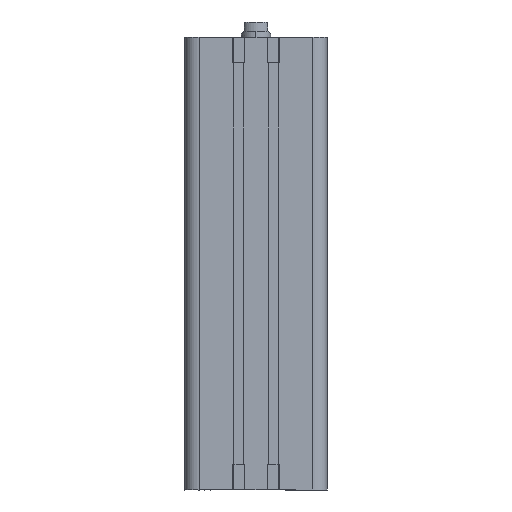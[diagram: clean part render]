
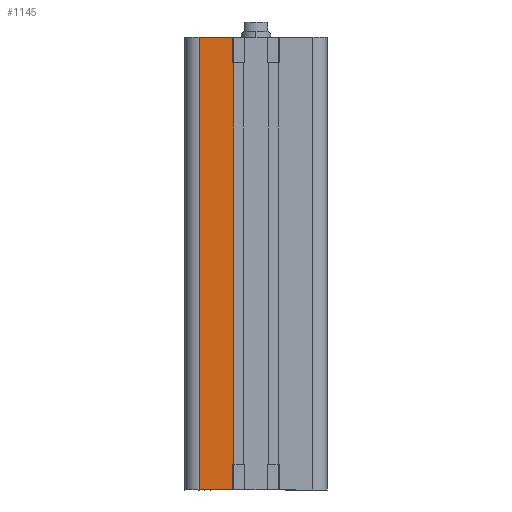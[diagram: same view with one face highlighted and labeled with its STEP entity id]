
A CAD part, left-side view. The second image highlights one B-rep face of the part: STEP entity #1145.
In plain terms, the highlighted planar face has unit normal (-1, 0, 0).
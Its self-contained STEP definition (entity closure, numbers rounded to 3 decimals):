
#158 = CARTESIAN_POINT ( 'NONE',  ( -39.25, 12.7, 0. ) ) ;
#498 = DIRECTION ( 'NONE',  ( 0., -1., 0. ) ) ;
#502 = CARTESIAN_POINT ( 'NONE',  ( -39.25, 39.25, 221. ) ) ;
#1145 = ADVANCED_FACE ( 'NONE', ( #13903 ), #2917, .F. ) ;
#1470 = CARTESIAN_POINT ( 'NONE',  ( -39.25, 12.7, -14. ) ) ;
#1471 = CARTESIAN_POINT ( 'NONE',  ( -39.25, 31.25, -14. ) ) ;
#1578 = CARTESIAN_POINT ( 'NONE',  ( -39.25, 31.25, 235. ) ) ;
#1579 = CARTESIAN_POINT ( 'NONE',  ( -39.25, 12.7, 235. ) ) ;
#1989 = VERTEX_POINT ( 'NONE', #1470 ) ;
#1990 = VERTEX_POINT ( 'NONE', #1471 ) ;
#2097 = VERTEX_POINT ( 'NONE', #1578 ) ;
#2098 = VERTEX_POINT ( 'NONE', #1579 ) ;
#2595 = EDGE_CURVE ( 'NONE', #2097, #2098, #6746, .T. ) ;
#2914 = DIRECTION ( 'NONE',  ( 0., 1., 0. ) ) ;
#2915 = DIRECTION ( 'NONE',  ( 1., 0., 0. ) ) ;
#2917 = PLANE ( 'NONE',  #7923 ) ;
#2925 = CARTESIAN_POINT ( 'NONE',  ( -39.25, 39.25, 221. ) ) ;
#3106 = EDGE_CURVE ( 'NONE', #1989, #1990, #6103, .T. ) ;
#4669 = ORIENTED_EDGE ( 'NONE', *, *, #5413, .T. ) ;
#4670 = ORIENTED_EDGE ( 'NONE', *, *, #3106, .F. ) ;
#4671 = ORIENTED_EDGE ( 'NONE', *, *, #5414, .F. ) ;
#4672 = ORIENTED_EDGE ( 'NONE', *, *, #5316, .T. ) ;
#4673 = ORIENTED_EDGE ( 'NONE', *, *, #5415, .T. ) ;
#4674 = ORIENTED_EDGE ( 'NONE', *, *, #12430, .F. ) ;
#4675 = ORIENTED_EDGE ( 'NONE', *, *, #5416, .F. ) ;
#4676 = ORIENTED_EDGE ( 'NONE', *, *, #2595, .F. ) ;
#5316 = EDGE_CURVE ( 'NONE', #6639, #6591, #10030, .T. ) ;
#5413 = EDGE_CURVE ( 'NONE', #2097, #1990, #10175, .T. ) ;
#5414 = EDGE_CURVE ( 'NONE', #6639, #1989, #10177, .T. ) ;
#5415 = EDGE_CURVE ( 'NONE', #6591, #14782, #10169, .T. ) ;
#5416 = EDGE_CURVE ( 'NONE', #2098, #14783, #10181, .T. ) ;
#5907 = CARTESIAN_POINT ( 'NONE',  ( -39.25, 39.25, -14. ) ) ;
#5908 = DIRECTION ( 'NONE',  ( 0., 1., 0. ) ) ;
#6103 = LINE ( 'NONE', #5907, #6105 ) ;
#6105 = VECTOR ( 'NONE', #5908, 1000. ) ;
#6591 = VERTEX_POINT ( 'NONE', #9501 ) ;
#6639 = VERTEX_POINT ( 'NONE', #158 ) ;
#6746 = LINE ( 'NONE', #14249, #6750 ) ;
#6750 = VECTOR ( 'NONE', #14244, 1000. ) ;
#7345 = LINE ( 'NONE', #502, #7347 ) ;
#7347 = VECTOR ( 'NONE', #498, 1000. ) ;
#7923 = AXIS2_PLACEMENT_3D ( 'NONE', #2925, #2915, #2914 ) ;
#8352 = EDGE_LOOP ( 'NONE', ( #4669, #4670, #4671, #4672, #4673, #4674, #4675, #4676 ) ) ;
#9501 = CARTESIAN_POINT ( 'NONE',  ( -39.25, 12.375, 0. ) ) ;
#9916 = DIRECTION ( 'NONE',  ( 0., -1., 0. ) ) ;
#9920 = CARTESIAN_POINT ( 'NONE',  ( -39.25, 39.25, 0. ) ) ;
#10030 = LINE ( 'NONE', #9920, #10032 ) ;
#10032 = VECTOR ( 'NONE', #9916, 1000. ) ;
#10169 = LINE ( 'NONE', #10454, #10182 ) ;
#10175 = LINE ( 'NONE', #10458, #10178 ) ;
#10177 = LINE ( 'NONE', #10460, #10180 ) ;
#10178 = VECTOR ( 'NONE', #10459, 1000. ) ;
#10180 = VECTOR ( 'NONE', #10462, 1000. ) ;
#10181 = LINE ( 'NONE', #10464, #10184 ) ;
#10182 = VECTOR ( 'NONE', #10463, 1000. ) ;
#10184 = VECTOR ( 'NONE', #10465, 1000. ) ;
#10454 = CARTESIAN_POINT ( 'NONE',  ( -39.25, 12.375, 221. ) ) ;
#10458 = CARTESIAN_POINT ( 'NONE',  ( -39.25, 31.25, 221. ) ) ;
#10459 = DIRECTION ( 'NONE',  ( 0., 0., -1. ) ) ;
#10460 = CARTESIAN_POINT ( 'NONE',  ( -39.25, 12.7, 332.716 ) ) ;
#10462 = DIRECTION ( 'NONE',  ( 0., 0., -1. ) ) ;
#10463 = DIRECTION ( 'NONE',  ( 0., 0., 1. ) ) ;
#10464 = CARTESIAN_POINT ( 'NONE',  ( -39.25, 12.7, 332.716 ) ) ;
#10465 = DIRECTION ( 'NONE',  ( 0., 0., -1. ) ) ;
#12178 = CARTESIAN_POINT ( 'NONE',  ( -39.25, 12.375, 221. ) ) ;
#12179 = CARTESIAN_POINT ( 'NONE',  ( -39.25, 12.7, 221. ) ) ;
#12430 = EDGE_CURVE ( 'NONE', #14783, #14782, #7345, .T. ) ;
#13903 = FACE_OUTER_BOUND ( 'NONE', #8352, .T. ) ;
#14244 = DIRECTION ( 'NONE',  ( 0., -1., 0. ) ) ;
#14249 = CARTESIAN_POINT ( 'NONE',  ( -39.25, 39.25, 235. ) ) ;
#14782 = VERTEX_POINT ( 'NONE', #12178 ) ;
#14783 = VERTEX_POINT ( 'NONE', #12179 ) ;
